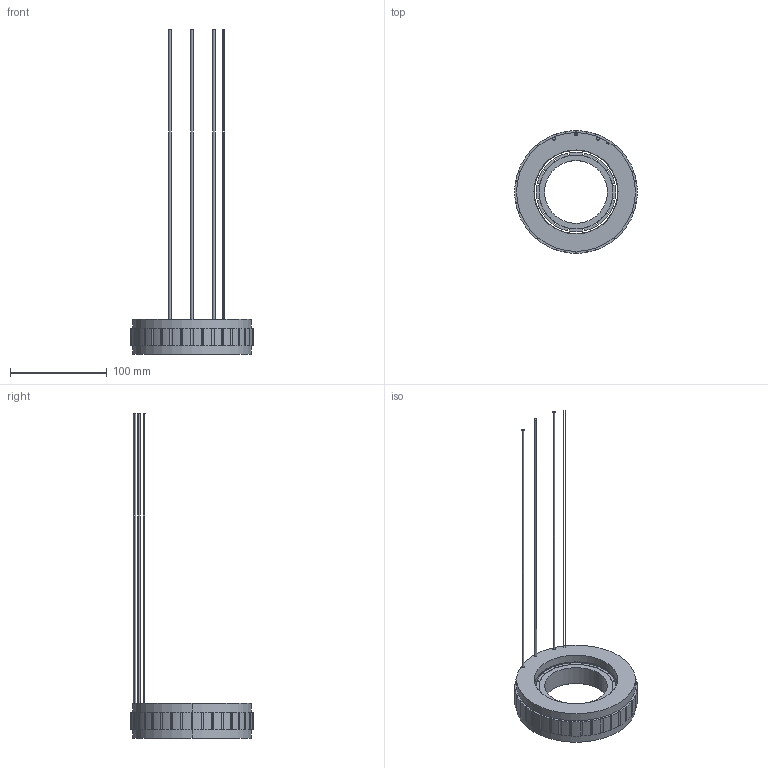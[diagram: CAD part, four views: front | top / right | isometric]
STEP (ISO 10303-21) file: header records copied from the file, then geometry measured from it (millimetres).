
FILE_DESCRIPTION (( 'STEP AP203' ), '1' );
FILE_NAME ('307080311SS (FMC12718-0090-2465N-8DS00)-V1.2.STEP', '2022-12-07T08:03:53', ( 'muse' ), ( 'muse' ), 'SwSTEP 2.0', 'SolidWorks 2022', '' );
FILE_SCHEMA (( 'CONFIG_CONTROL_DESIGN' ));
Length unit declared in the file: millimetre
Products named in the file (6): 线包127L300; 307080311SS (FMC12718-0090-2465N-8DS00)-V1.2; 127包胶模; 转子铁芯127L20; 127定子铁芯; 磁钢127L20
Assembly tree (54 placements, depth 2):
  307080311SS (FMC12718-0090-2465N-8DS00)-V1.2
    127包胶模  x18
    127定子铁芯  x18
    线包127L300
    转子铁芯127L20
    磁钢127L20  x16
Bounding box: 126.98 x 126.97 x 336 mm (x, y, z)
Volume: 236030.4 mm3; surface area: 150379.7 mm2
Topology: 55 solids, 55 shells, 1263 faces, 3480 edges, 2296 vertices
Faces by surface type: plane 831, cylinder 432
Entity records: 5293 total; most frequent: DIRECTION 665, CARTESIAN_POINT 586, ORIENTED_EDGE 514, EDGE_CURVE 257, AXIS2_PLACEMENT_3D 249, VERTEX_POINT 170, VECTOR 167, LINE 167
